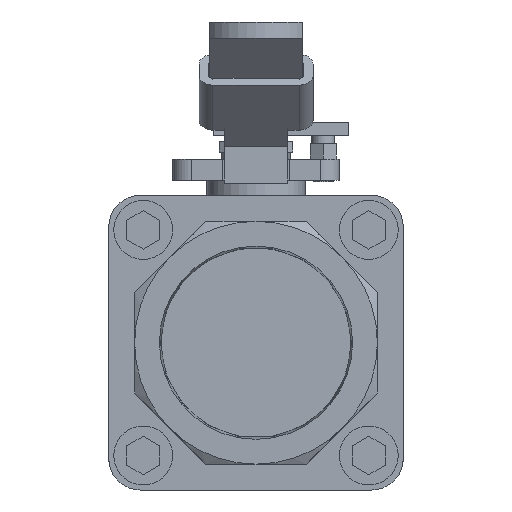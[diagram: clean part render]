
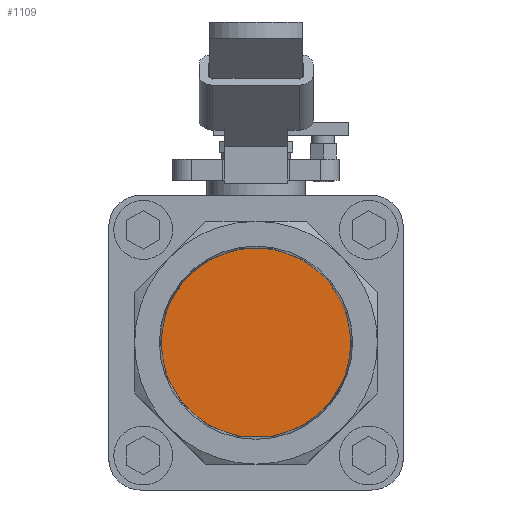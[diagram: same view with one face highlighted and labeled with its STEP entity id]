
A CAD part, left-side view. The second image highlights one B-rep face of the part: STEP entity #1109.
In plain terms, the highlighted planar face has unit normal (-1, 0, 0).
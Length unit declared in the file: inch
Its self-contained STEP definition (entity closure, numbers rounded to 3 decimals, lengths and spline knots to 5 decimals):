
#1093=CARTESIAN_POINT('',(0.6969,0.56318,0.0));
#1094=DIRECTION('',(1.0,0.0,0.0));
#1095=DIRECTION('',(0.0,-1.0,0.0));
#1096=AXIS2_PLACEMENT_3D('',#1093,#1094,#1095);
#1097=PLANE('',#1096);
#1098=CARTESIAN_POINT('',(0.6969,1.12636,0.0));
#1099=VERTEX_POINT('',#1098);
#1100=CARTESIAN_POINT('',(0.6969,0.0,0.0));
#1101=DIRECTION('',(-1.0,0.0,0.0));
#1102=DIRECTION('',(0.0,1.0,0.0));
#1103=AXIS2_PLACEMENT_3D('',#1100,#1101,#1102);
#1104=CIRCLE('',#1103,1.12636);
#1105=EDGE_CURVE('',#1099,#1099,#1104,.T.);
#1106=ORIENTED_EDGE('',*,*,#1105,.T.);
#1107=EDGE_LOOP('',(#1106));
#1108=FACE_OUTER_BOUND('',#1107,.T.);
#1109=ADVANCED_FACE('',(#1108),#1097,.F.);
